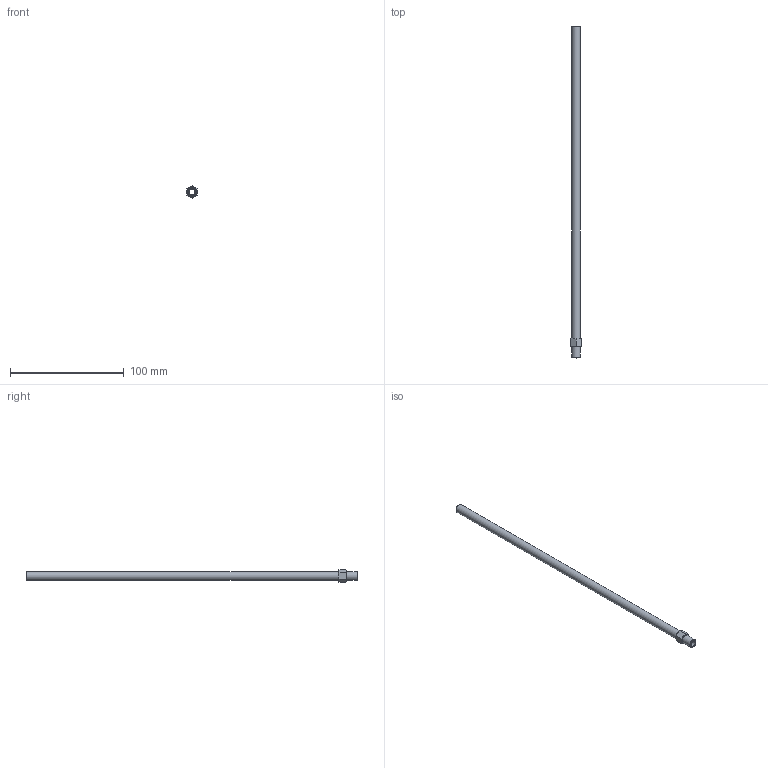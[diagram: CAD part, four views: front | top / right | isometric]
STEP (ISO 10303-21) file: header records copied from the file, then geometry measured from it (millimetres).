
FILE_DESCRIPTION(/* description */ (''),/* implementation_level */ '2;1');
FILE_NAME(/* name */ 'C:/Users/drich/Desktop/APN16-11-1_2 v1.step',/* time_stamp */ '2019-12-27T17:50:02-06:00',/* author */ (''),/* organization */ (''),/* preprocessor_version */ 'ST-DEVELOPER v18',/* originating_system */ 'Autodesk Translation Framework v8.12.0.6',/* authorisation */ '');
FILE_SCHEMA (('AUTOMOTIVE_DESIGN { 1 0 10303 214 3 1 1 }'));
Length unit declared in the file: inch
Products named in the file (1): APN16-11-1_2
Bounding box: 9.5 x 292.1 x 10.97 mm (x, y, z)
Volume: 8410.2 mm3; surface area: 11477.8 mm2
Topology: 1 solids, 1 shells, 17 faces, 39 edges, 26 vertices
Faces by surface type: plane 10, cone 4, cylinder 3
Full cylindrical faces by diameter (mm): 4.724 x1, 7.616 x2
Entity records: 521 total; most frequent: CARTESIAN_POINT 107, ORIENTED_EDGE 78, DIRECTION 77, EDGE_CURVE 39, AXIS2_PLACEMENT_3D 32, VERTEX_POINT 26, EDGE_LOOP 21, FACE_OUTER_BOUND 17
